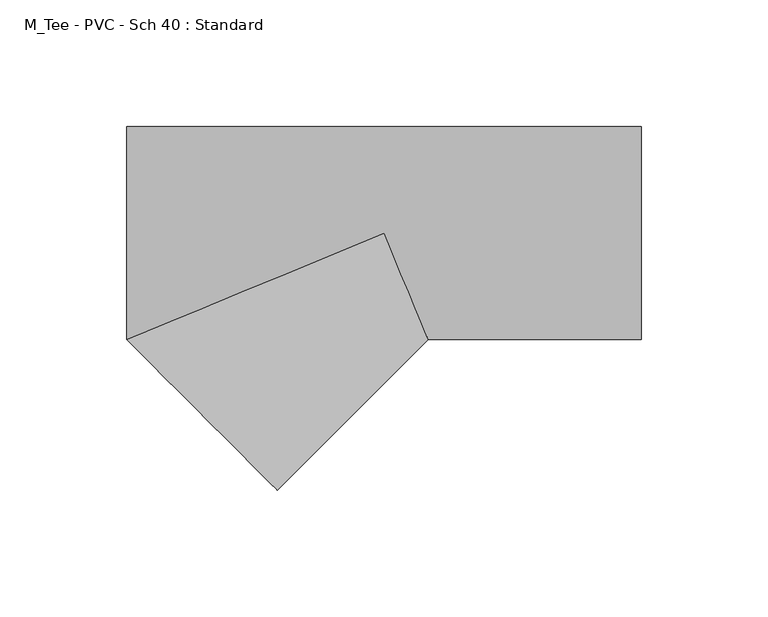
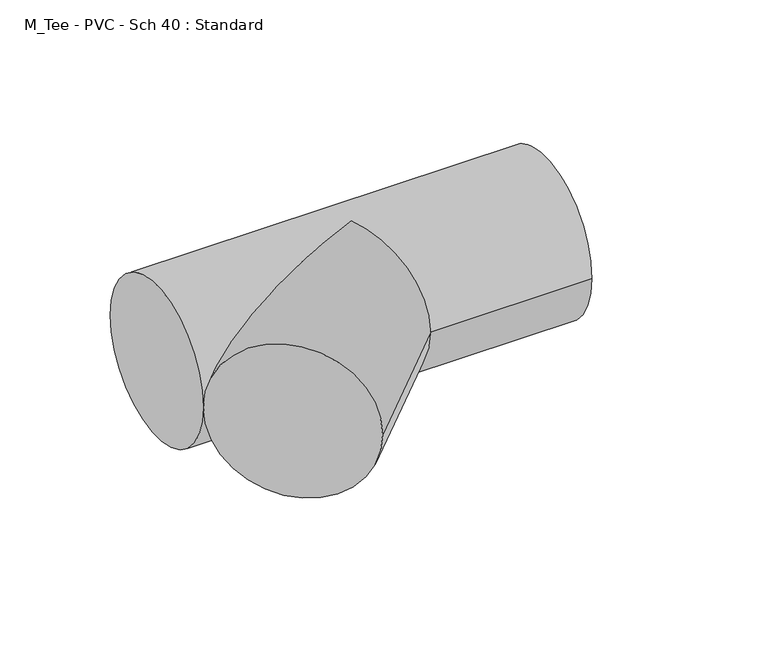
"""IFC4 building model written with IfcOpenShell, lengths in millimetres: pipe fitting geometry, M_Tee - PVC - Sch 40 : Standard."""

from ifc_helpers import new_model, si_unit, frame, origin, place, context, project, spatial, circle_curve, ellipse_curve, source, transform, mapped, element, save
from ifc_brep_helpers import plane_surface, cylinder_surface, advanced_brep


def m_tee_pvc_sch_40_standard_5dbb3026(model_context):
    return source(origin(), model_context, "Body", "AdvancedBrep", [
        advanced_brep(
        [(-101.5878618, -42.0751, 0.0), (-101.5878618, 42.0751, 0.0), (101.5878618, -42.0751, 0.0), (101.5878618, 42.0751, 0.0), (0.0, 0.0, 42.0751), (17.4264327, -42.0751, 0.0), (0.0, 0.0, -42.0751), (-42.0886547, -101.5822468, 0.0)],
        [
            (0, 1, circle_curve(frame((-101.5878618, 0.0, 0.0), z_axis=(-1.0, 0.0, 0.0), x_axis=(0.0, 1.0, 0.0)), 42.0751)),
            (1, 0, circle_curve(frame((-101.5878618, 0.0, 0.0), z_axis=(-1.0, 0.0, 0.0), x_axis=(0.0, 1.0, 0.0)), 42.0751)),
            (2, 3, circle_curve(frame((101.5878618, 0.0, 0.0), z_axis=(1.0, 0.0, 0.0), x_axis=(0.0, 1.0, 0.0)), 42.0751)),
            (3, 2, circle_curve(frame((101.5878618, 0.0, 0.0), z_axis=(1.0, 0.0, 0.0), x_axis=(0.0, 1.0, 0.0)), 42.0751)),
            (0, 4, ellipse_curve(frame((0.0, 0.0, 0.0), z_axis=(-0.38265261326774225, 0.9238922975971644, 0.0), x_axis=(-0.9238922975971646, -0.3826526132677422, 0.0)), 109.9563901, 42.0751)),
            (4, 5, ellipse_curve(frame((0.0, 0.0, 0.0), z_axis=(0.9238922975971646, 0.38265261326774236, 0.0), x_axis=(-0.3826526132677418, 0.9238922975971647, 0.0)), 45.5411308, 42.0751)),
            (5, 2),
            (3, 1),
            (5, 6, ellipse_curve(frame((0.0, 0.0, 0.0), z_axis=(0.9238922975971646, 0.38265261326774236, 0.0), x_axis=(-0.3826526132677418, 0.9238922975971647, 0.0)), 45.5411308, 42.0751)),
            (6, 0, ellipse_curve(frame((0.0, 0.0, 0.0), z_axis=(-0.38265261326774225, 0.9238922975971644, 0.0), x_axis=(-0.9238922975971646, -0.3826526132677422, 0.0)), 109.9563901, 42.0751)),
            (0, 7, circle_curve(frame((-71.8382583, -71.8286734, 0.0), z_axis=(-0.707153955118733, -0.7070596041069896, 0.0), x_axis=(0.7070596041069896, -0.707153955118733, 0.0)), 42.0751)),
            (7, 0, circle_curve(frame((-71.8382583, -71.8286734, 0.0), z_axis=(-0.707153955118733, -0.7070596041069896, 0.0), x_axis=(0.7070596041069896, -0.707153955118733, 0.0)), 42.0751)),
            (7, 5),
        ],
        [
            plane_surface(frame((-101.5878618, 0.0, 0.0), z_axis=(-1.0, 0.0, 0.0), x_axis=(0.0, 0.0, 1.0))),
            plane_surface(frame((101.5878618, 0.0, 0.0), z_axis=(1.0, 0.0, 0.0), x_axis=(0.0, 0.0, 1.0))),
            cylinder_surface(frame((-101.5878618, 0.0, 0.0), z_axis=(-1.0, 0.0, 0.0), x_axis=(0.0, 1.0, 0.0)), 42.0751),
            plane_surface(frame((-71.8382583, -71.8286734, 0.0), z_axis=(-0.707153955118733, -0.7070596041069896, 0.0), x_axis=(0.0, 0.0, 1.0))),
            cylinder_surface(frame((0.0, 0.0, 0.0), z_axis=(0.707153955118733, 0.7070596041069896, 0.0), x_axis=(0.7070596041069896, -0.707153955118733, 0.0)), 42.0751),
        ],
        [
            (0, [[1, 2]]),
            (1, [[3, 4]]),
            (2, [[-1, 5, 6, 7, -4, 8]]),
            (2, [[-2, -8, -3, -7, 9, 10]]),
            (3, [[11, 12]]),
            (4, [[-12, 13, -6, -5]]),
            (4, [[-11, -10, -9, -13]]),
        ],
    ),
    ])


if __name__ == "__main__":
    model = new_model("IFC4")
    model_context = context("Model", 3, world=origin())
    ifc_project = project(units=[si_unit("LENGTHUNIT", "METRE", prefix="MILLI")], contexts=[model_context])
    site = spatial("IfcSite", under=ifc_project)
    building = spatial("IfcBuilding", under=site)
    placement = place(None, origin())
    m_tee_pvc_sch_40_standard_shape = m_tee_pvc_sch_40_standard_5dbb3026(model_context)
    element("IfcPipeFitting", 1, ObjectType="M_Tee - PVC - Sch 40 : Standard", at=placement, inside=building, context=model_context, shape_type="MappedRepresentation", body=[
        mapped(m_tee_pvc_sch_40_standard_shape, transform((0.0, 0.0, 0.0), x_axis=(1.0, 0.0, 0.0), y_axis=(0.0, 1.0, 0.0), z_axis=(0.0, 0.0, 1.0))),
    ])
    save(model, "model.ifc")
